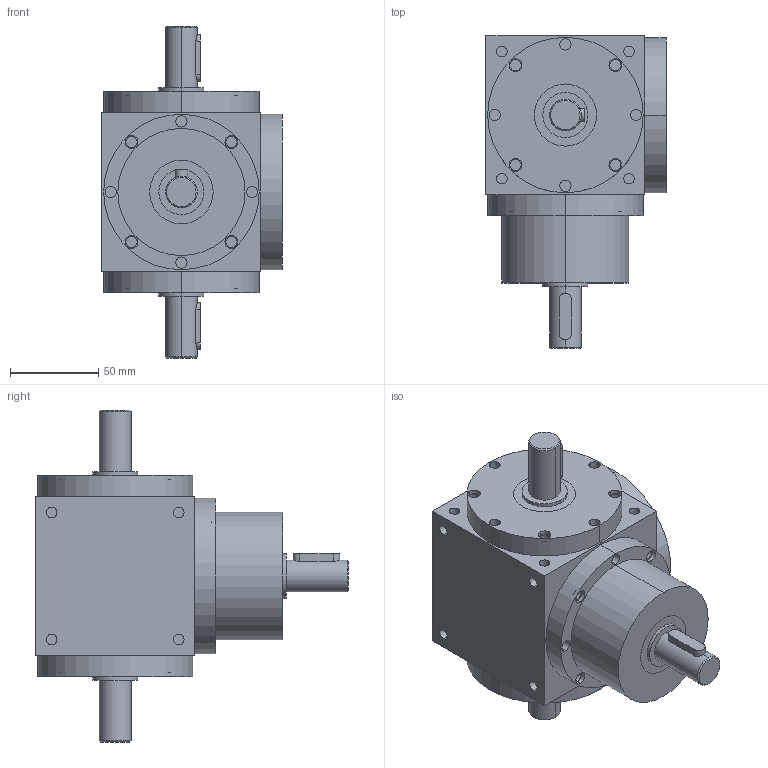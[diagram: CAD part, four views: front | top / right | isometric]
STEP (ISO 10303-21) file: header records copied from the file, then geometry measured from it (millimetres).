
FILE_DESCRIPTION (( 'STEP AP203' ), '1' );
FILE_NAME ('HD-09-1-C.step', '2018-04-11T10:42:15', ( 'IT Division' ), ( 'IT' ), 'SwSTEP 2.0', 'SolidWorks 2016', '' );
FILE_SCHEMA (( 'CONFIG_CONTROL_DESIGN' ));
Length unit declared in the file: millimetre
Products named in the file (1): HD-09-1-C
Bounding box: 102 x 177 x 188 mm (x, y, z)
Volume: 1197175 mm3; surface area: 122003.7 mm2
Topology: 6 solids, 6 shells, 226 faces, 453 edges, 302 vertices
Faces by surface type: cylinder 134, plane 86, cone 6
Entity records: 6258 total; most frequent: CARTESIAN_POINT 1184, DIRECTION 1169, ORIENTED_EDGE 906, AXIS2_PLACEMENT_3D 499, EDGE_CURVE 453, VERTEX_POINT 302, EDGE_LOOP 289, CIRCLE 272
